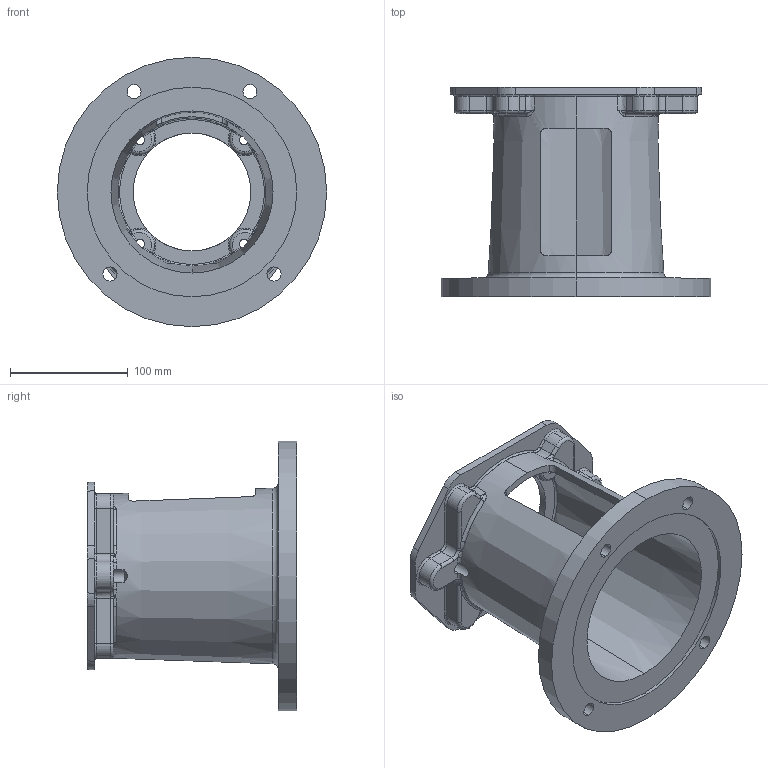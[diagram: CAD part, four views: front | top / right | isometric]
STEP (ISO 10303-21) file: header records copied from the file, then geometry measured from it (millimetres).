
FILE_DESCRIPTION (( 'STEP AP203' ), '1' );
FILE_NAME ('E70070100M.STEP', '2014-11-04T13:28:24', ( '' ), ( '' ), 'SwSTEP 2.0', 'SolidWorks 2014', '' );
FILE_SCHEMA (( 'CONFIG_CONTROL_DESIGN' ));
Length unit declared in the file: inch
Products named in the file (1): E70070100M
Bounding box: 228.6 x 177.8 x 228.6 mm (x, y, z)
Volume: 974197.4 mm3; surface area: 242195.2 mm2
Topology: 1 solids, 1 shells, 294 faces, 776 edges, 455 vertices
Faces by surface type: torus 83, cylinder 74, bspline 60, plane 43, cone 18, sphere 16
Entity records: 11427 total; most frequent: CARTESIAN_POINT 4506, ORIENTED_EDGE 1504, DIRECTION 1442, EDGE_CURVE 752, AXIS2_PLACEMENT_3D 647, VERTEX_POINT 455, CIRCLE 412, EDGE_LOOP 313
